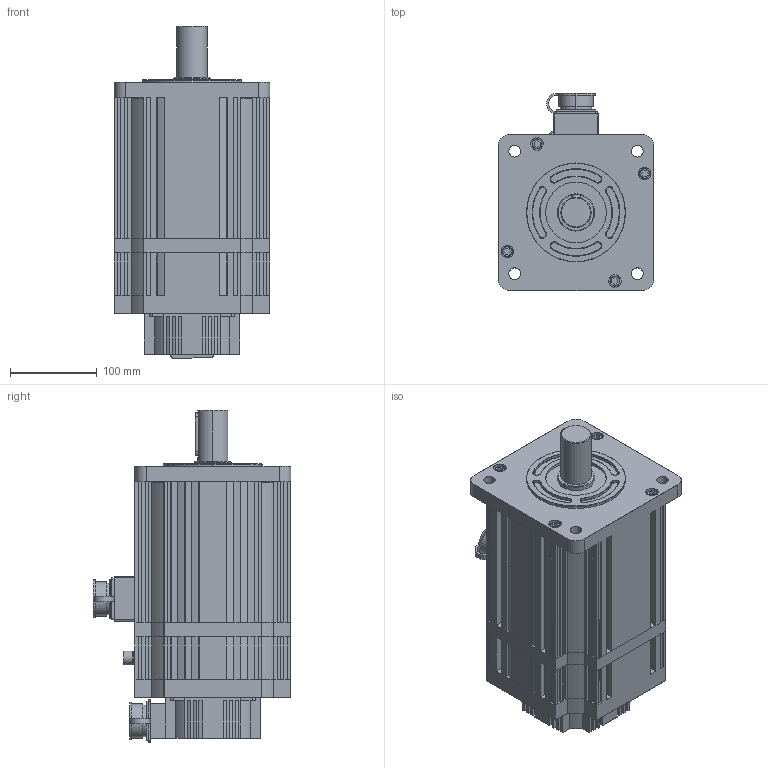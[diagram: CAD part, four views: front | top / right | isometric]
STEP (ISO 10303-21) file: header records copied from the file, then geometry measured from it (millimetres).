
FILE_DESCRIPTION (( 'STEP AP203' ), '1' );
FILE_NAME ('110-180-Z系列伺服电机[180ST-M19015Z2].STEP', '2020-07-04T07:13:06', ( '微软用户' ), ( '微软中国' ), 'SwSTEP 2.0', 'SolidWorks 2016', '' );
FILE_SCHEMA (( 'CONFIG_CONTROL_DESIGN' ));
Products named in the file (1): 110-180-Z炵蹈侜督萇儂[180ST-M19015Z2]
Bounding box: 180 x 228 x 383.24 mm (x, y, z)
Volume: 8165319 mm3; surface area: 368477.1 mm2
Topology: 1 solids, 1 shells, 2547 faces, 6464 edges, 4058 vertices
Faces by surface type: plane 1391, cylinder 584, bspline 370, torus 180, sphere 16, cone 6
Entity records: 92067 total; most frequent: CARTESIAN_POINT 33249, ORIENTED_EDGE 12896, DIRECTION 10866, EDGE_CURVE 6448, VECTOR 4444, LINE 4444, VERTEX_POINT 4058, AXIS2_PLACEMENT_3D 3211
